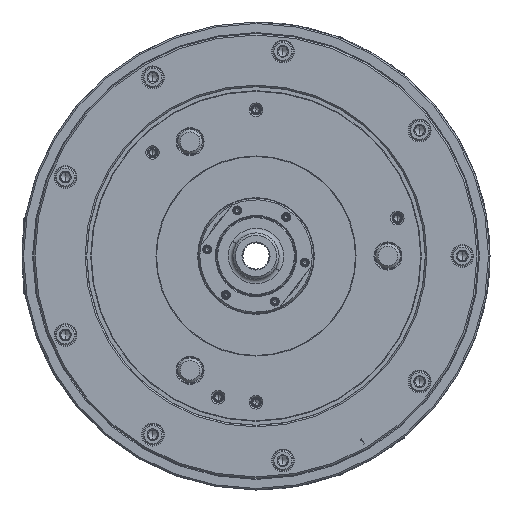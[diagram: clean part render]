
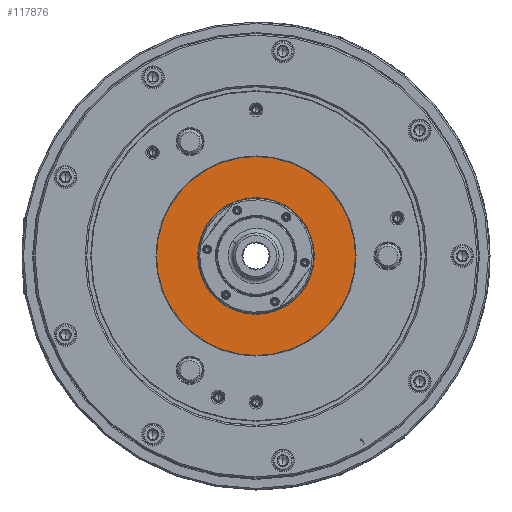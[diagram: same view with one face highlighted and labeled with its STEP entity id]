
A CAD part, left-side view. The second image highlights one B-rep face of the part: STEP entity #117876.
In plain terms, the highlighted planar face has unit normal (-1, 0, 0) as drawn and (0, 0, -1) by its records, which use the part's own axes.
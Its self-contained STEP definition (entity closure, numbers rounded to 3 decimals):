
#2991 = CARTESIAN_POINT ( 'NONE',  ( 0., 0., -126.8 ) ) ;
#8528 = DIRECTION ( 'NONE',  ( 0., 0., 1. ) ) ;
#9557 = AXIS2_PLACEMENT_3D ( 'NONE', #2991, #135641, #60763 ) ;
#26808 = AXIS2_PLACEMENT_3D ( 'NONE', #93866, #8528, #94809 ) ;
#31930 = EDGE_CURVE ( 'NONE', #36118, #168414, #169545, .T. ) ;
#36118 = VERTEX_POINT ( 'NONE', #79911 ) ;
#47862 = DIRECTION ( 'NONE',  ( 1., 0., 0. ) ) ;
#50846 = VERTEX_POINT ( 'NONE', #148220 ) ;
#51176 = EDGE_CURVE ( 'NONE', #182975, #50846, #79074, .T. ) ;
#54458 = AXIS2_PLACEMENT_3D ( 'NONE', #140045, #180839, #169410 ) ;
#60763 = DIRECTION ( 'NONE',  ( 1., 0., 0. ) ) ;
#62213 = ORIENTED_EDGE ( 'NONE', *, *, #115423, .T. ) ;
#64074 = EDGE_LOOP ( 'NONE', ( #167201, #98834 ) ) ;
#68477 = CARTESIAN_POINT ( 'NONE',  ( 37.9, 0., -126.8 ) ) ;
#72325 = FACE_BOUND ( 'NONE', #160718, .T. ) ;
#79074 = CIRCLE ( 'NONE', #9557, 37.9 ) ;
#79911 = CARTESIAN_POINT ( 'NONE',  ( 64.616, 0., -126.8 ) ) ;
#81798 = AXIS2_PLACEMENT_3D ( 'NONE', #129265, #187092, #146347 ) ;
#93866 = CARTESIAN_POINT ( 'NONE',  ( 0., 0., -126.8 ) ) ;
#94809 = DIRECTION ( 'NONE',  ( 1., 0., 0. ) ) ;
#98834 = ORIENTED_EDGE ( 'NONE', *, *, #31930, .F. ) ;
#102410 = CIRCLE ( 'NONE', #169003, 37.9 ) ;
#115423 = EDGE_CURVE ( 'NONE', #50846, #182975, #102410, .T. ) ;
#117759 = CIRCLE ( 'NONE', #26808, 64.616 ) ;
#117876 = ADVANCED_FACE ( 'NONE', ( #72325, #158671 ), #145395, .T. ) ;
#129265 = CARTESIAN_POINT ( 'NONE',  ( 0., -64.616, -126.8 ) ) ;
#134648 = EDGE_CURVE ( 'NONE', #168414, #36118, #117759, .T. ) ;
#135641 = DIRECTION ( 'NONE',  ( 0., 0., 1. ) ) ;
#139280 = CARTESIAN_POINT ( 'NONE',  ( -64.616, 0., -126.8 ) ) ;
#139560 = DIRECTION ( 'NONE',  ( 0., 0., 1. ) ) ;
#140045 = CARTESIAN_POINT ( 'NONE',  ( 0., 0., -126.8 ) ) ;
#145395 = PLANE ( 'NONE',  #81798 ) ;
#146347 = DIRECTION ( 'NONE',  ( -1., 0., 0. ) ) ;
#148220 = CARTESIAN_POINT ( 'NONE',  ( -37.9, 0., -126.8 ) ) ;
#158671 = FACE_OUTER_BOUND ( 'NONE', #64074, .T. ) ;
#160718 = EDGE_LOOP ( 'NONE', ( #62213, #185689 ) ) ;
#167201 = ORIENTED_EDGE ( 'NONE', *, *, #134648, .F. ) ;
#168414 = VERTEX_POINT ( 'NONE', #139280 ) ;
#169003 = AXIS2_PLACEMENT_3D ( 'NONE', #177784, #139560, #47862 ) ;
#169410 = DIRECTION ( 'NONE',  ( 1., 0., 0. ) ) ;
#169545 = CIRCLE ( 'NONE', #54458, 64.616 ) ;
#177784 = CARTESIAN_POINT ( 'NONE',  ( 0., 0., -126.8 ) ) ;
#180839 = DIRECTION ( 'NONE',  ( 0., 0., 1. ) ) ;
#182975 = VERTEX_POINT ( 'NONE', #68477 ) ;
#185689 = ORIENTED_EDGE ( 'NONE', *, *, #51176, .T. ) ;
#187092 = DIRECTION ( 'NONE',  ( 0., 0., -1. ) ) ;
